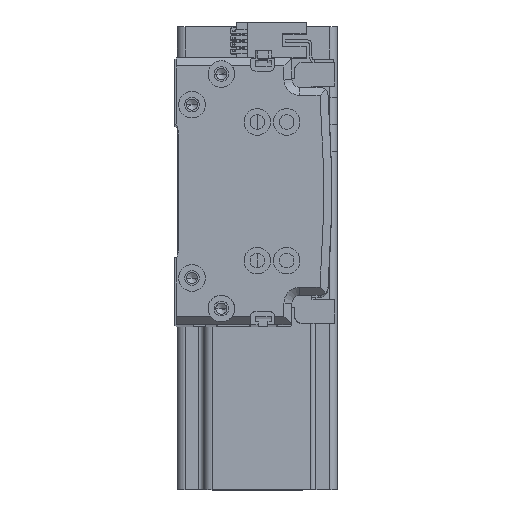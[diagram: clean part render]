
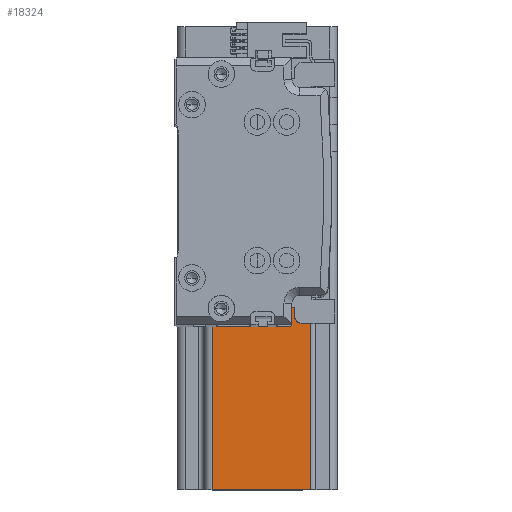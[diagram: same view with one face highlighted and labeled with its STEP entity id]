
A CAD part, top view. The second image highlights one B-rep face of the part: STEP entity #18324.
In plain terms, the highlighted planar face has unit normal (0, 0, 1) as drawn and (-1, 0, 0) by its records, which use the part's own axes.
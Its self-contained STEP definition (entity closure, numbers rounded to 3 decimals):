
#525 = DIRECTION ( 'NONE',  ( 0., 0., -1. ) ) ;
#2565 = VERTEX_POINT ( 'NONE', #6674 ) ;
#3075 = CARTESIAN_POINT ( 'NONE',  ( -30., 20., 137. ) ) ;
#3684 = ORIENTED_EDGE ( 'NONE', *, *, #12648, .T. ) ;
#4202 = AXIS2_PLACEMENT_3D ( 'NONE', #8695, #33198, #12184 ) ;
#4555 = VECTOR ( 'NONE', #30749, 1000. ) ;
#5915 = VERTEX_POINT ( 'NONE', #15909 ) ;
#6248 = CARTESIAN_POINT ( 'NONE',  ( -30., -30., 137. ) ) ;
#6286 = ORIENTED_EDGE ( 'NONE', *, *, #29566, .F. ) ;
#6562 = VECTOR ( 'NONE', #525, 1000. ) ;
#6674 = CARTESIAN_POINT ( 'NONE',  ( -30., -17., 10. ) ) ;
#7150 = ORIENTED_EDGE ( 'NONE', *, *, #45319, .T. ) ;
#7175 = VECTOR ( 'NONE', #37806, 1000. ) ;
#7606 = CARTESIAN_POINT ( 'NONE',  ( -30., -27., 137. ) ) ;
#7628 = LINE ( 'NONE', #42508, #6562 ) ;
#8283 = LINE ( 'NONE', #16804, #7175 ) ;
#8514 = EDGE_CURVE ( 'NONE', #16174, #5915, #15847, .T. ) ;
#8695 = CARTESIAN_POINT ( 'NONE',  ( -30., -30., 137. ) ) ;
#8820 = VERTEX_POINT ( 'NONE', #19932 ) ;
#9151 = LINE ( 'NONE', #41615, #18421 ) ;
#9209 = VERTEX_POINT ( 'NONE', #32601 ) ;
#9472 = CARTESIAN_POINT ( 'NONE',  ( -30., -30., 0. ) ) ;
#12184 = DIRECTION ( 'NONE',  ( 0., 0., -1. ) ) ;
#12648 = EDGE_CURVE ( 'NONE', #9209, #31724, #42027, .T. ) ;
#12982 = DIRECTION ( 'NONE',  ( 0., -1., 0. ) ) ;
#13172 = VERTEX_POINT ( 'NONE', #34404 ) ;
#14077 = VECTOR ( 'NONE', #18164, 1000. ) ;
#14778 = CARTESIAN_POINT ( 'NONE',  ( -30., 20., 10. ) ) ;
#14954 = PLANE ( 'NONE',  #4202 ) ;
#15847 = LINE ( 'NONE', #39097, #25179 ) ;
#15909 = CARTESIAN_POINT ( 'NONE',  ( -30., 27., 10. ) ) ;
#15960 = ORIENTED_EDGE ( 'NONE', *, *, #32930, .T. ) ;
#16174 = VERTEX_POINT ( 'NONE', #18841 ) ;
#16804 = CARTESIAN_POINT ( 'NONE',  ( -30., -30., 10. ) ) ;
#18164 = DIRECTION ( 'NONE',  ( 0., 0., 1. ) ) ;
#18285 = DIRECTION ( 'NONE',  ( 0., 0., 1. ) ) ;
#18324 = ADVANCED_FACE ( 'NONE', ( #31880 ), #14954, .F. ) ;
#18421 = VECTOR ( 'NONE', #20599, 1000. ) ;
#18536 = EDGE_CURVE ( 'NONE', #2565, #31724, #8283, .T. ) ;
#18841 = CARTESIAN_POINT ( 'NONE',  ( -30., 20., 10. ) ) ;
#19229 = ORIENTED_EDGE ( 'NONE', *, *, #8514, .T. ) ;
#19826 = VECTOR ( 'NONE', #12982, 1000. ) ;
#19932 = CARTESIAN_POINT ( 'NONE',  ( -30., -17., 137. ) ) ;
#20599 = DIRECTION ( 'NONE',  ( 0., 0., 1. ) ) ;
#25028 = DIRECTION ( 'NONE',  ( 0., 1., 0. ) ) ;
#25179 = VECTOR ( 'NONE', #25028, 1000. ) ;
#27342 = EDGE_CURVE ( 'NONE', #13172, #9209, #38460, .T. ) ;
#28026 = ORIENTED_EDGE ( 'NONE', *, *, #18536, .F. ) ;
#29566 = EDGE_CURVE ( 'NONE', #16174, #37882, #41104, .T. ) ;
#30749 = DIRECTION ( 'NONE',  ( 0., -1., 0. ) ) ;
#31724 = VERTEX_POINT ( 'NONE', #44927 ) ;
#31880 = FACE_OUTER_BOUND ( 'NONE', #39192, .T. ) ;
#32478 = LINE ( 'NONE', #6248, #4555 ) ;
#32601 = CARTESIAN_POINT ( 'NONE',  ( -30., -27., 0. ) ) ;
#32930 = EDGE_CURVE ( 'NONE', #5915, #13172, #7628, .T. ) ;
#33198 = DIRECTION ( 'NONE',  ( 1., 0., 0. ) ) ;
#34404 = CARTESIAN_POINT ( 'NONE',  ( -30., 27., 0. ) ) ;
#37019 = EDGE_CURVE ( 'NONE', #37882, #8820, #32478, .T. ) ;
#37806 = DIRECTION ( 'NONE',  ( 0., -1., 0. ) ) ;
#37882 = VERTEX_POINT ( 'NONE', #3075 ) ;
#38460 = LINE ( 'NONE', #9472, #19826 ) ;
#39097 = CARTESIAN_POINT ( 'NONE',  ( -30., 30., 10. ) ) ;
#39103 = ORIENTED_EDGE ( 'NONE', *, *, #37019, .F. ) ;
#39192 = EDGE_LOOP ( 'NONE', ( #28026, #7150, #39103, #6286, #19229, #15960, #41698, #3684 ) ) ;
#39957 = VECTOR ( 'NONE', #18285, 1000. ) ;
#41104 = LINE ( 'NONE', #14778, #39957 ) ;
#41615 = CARTESIAN_POINT ( 'NONE',  ( -30., -17., 137. ) ) ;
#41698 = ORIENTED_EDGE ( 'NONE', *, *, #27342, .T. ) ;
#42027 = LINE ( 'NONE', #7606, #14077 ) ;
#42508 = CARTESIAN_POINT ( 'NONE',  ( -30., 27., 137. ) ) ;
#44927 = CARTESIAN_POINT ( 'NONE',  ( -30., -27., 10. ) ) ;
#45319 = EDGE_CURVE ( 'NONE', #2565, #8820, #9151, .T. ) ;
